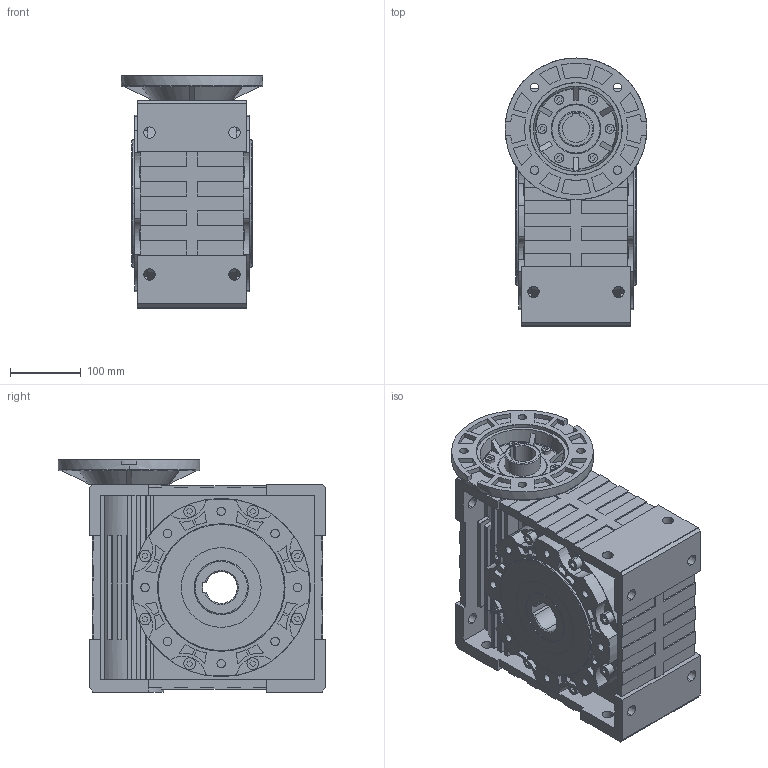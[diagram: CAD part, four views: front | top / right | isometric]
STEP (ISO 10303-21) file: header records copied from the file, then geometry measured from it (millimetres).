
FILE_DESCRIPTION (( 'STEP AP203' ), '1' );
FILE_NAME ('CMRV130-B13.STEP', '2019-08-01T14:00:26', ( '' ), ( '' ), 'SwSTEP 2.0', 'SolidWorks 2012', '' );
FILE_SCHEMA (( 'CONFIG_CONTROL_DESIGN' ));
Length unit declared in the file: millimetre
Products named in the file (6): CMRV130-B13; 0201111108001; GBú»T 70ú«1-2000-+-¨¢ÃÈ¦Í¨-À-¦ÂñM8í-20(8ú«8+Â); 5_1; 4_2; 1_2
Assembly tree (10 placements, depth 2):
  CMRV130-B13
    1_2
    4_2
    5_1
    GBú»T 70ú«1-2000-+-¨¢ÃÈ¦Í¨-À-¦ÂñM8í-20(8ú«8+Â)  x6
    0201111108001
Bounding box: 200 x 377.5 x 327.5 mm (x, y, z)
Volume: 13046550.2 mm3; surface area: 985129.4 mm2
Topology: 10 solids, 11 shells, 1129 faces, 2921 edges, 1933 vertices
Faces by surface type: plane 641, cylinder 411, cone 38, torus 28, bspline 11
Entity records: 34251 total; most frequent: CARTESIAN_POINT 7468, DIRECTION 5461, ORIENTED_EDGE 5378, EDGE_CURVE 2689, AXIS2_PLACEMENT_3D 1856, VERTEX_POINT 1783, LINE 1749, VECTOR 1749
